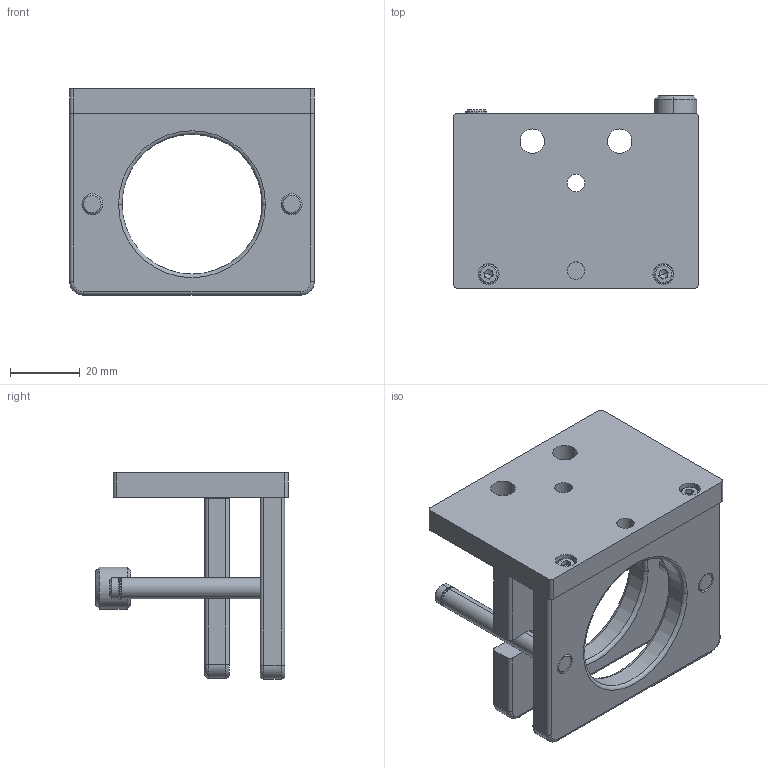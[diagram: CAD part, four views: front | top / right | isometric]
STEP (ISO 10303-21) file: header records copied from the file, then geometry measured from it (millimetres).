
FILE_DESCRIPTION (( 'STEP AP203' ), '1' );
FILE_NAME ('7MMF130薦疏え釱.STEP', '2019-12-04T03:21:53', ( '' ), ( '' ), 'SwSTEP 2.0', 'SolidWorks 2018', '' );
FILE_SCHEMA (( 'CONFIG_CONTROL_DESIGN' ));
Length unit declared in the file: millimetre
Products named in the file (1): 7MMF130薦疏え釱
Bounding box: 70 x 55 x 59 mm (x, y, z)
Volume: 58887.4 mm3; surface area: 27161.8 mm2
Topology: 12 solids, 12 shells, 228 faces, 523 edges, 313 vertices
Faces by surface type: cylinder 83, plane 77, cone 34, torus 30, sphere 4
Entity records: 6438 total; most frequent: DIRECTION 1209, CARTESIAN_POINT 1113, ORIENTED_EDGE 998, EDGE_CURVE 499, AXIS2_PLACEMENT_3D 487, VERTEX_POINT 307, EDGE_LOOP 266, CIRCLE 258
